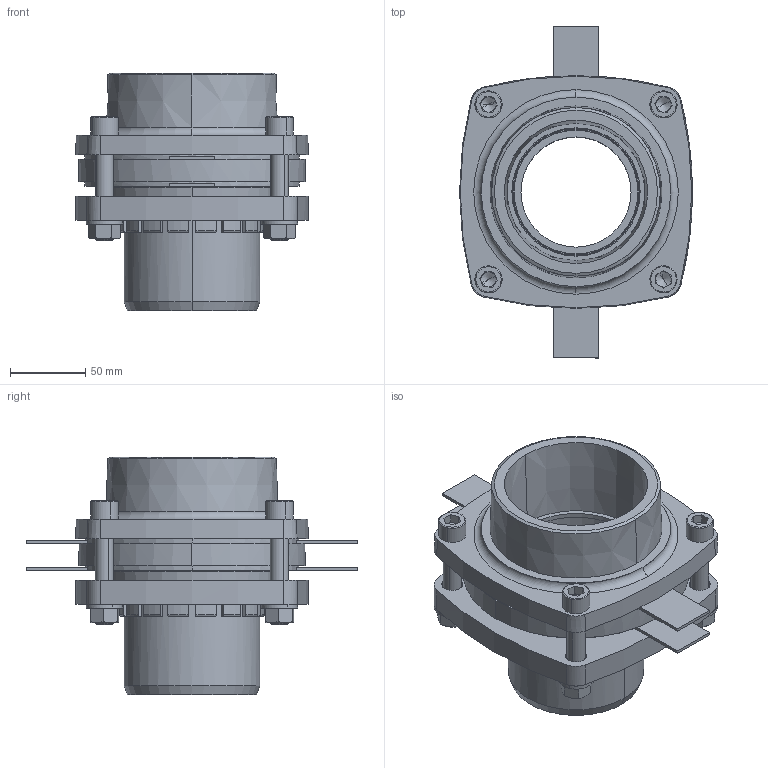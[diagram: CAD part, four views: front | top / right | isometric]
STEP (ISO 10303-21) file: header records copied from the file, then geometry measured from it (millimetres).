
FILE_DESCRIPTION (( 'STEP AP203' ), '1' );
FILE_NAME ('KP_C13-90-110M.step', '2011-08-08T12:02:44', ( '' ), ( '' ), 'SwSTEP 2.0', 'SolidWorks 2011', '' );
FILE_SCHEMA (( 'CONFIG_CONTROL_DESIGN' ));
Length unit declared in the file: millimetre
Products named in the file (1): KP_C13-90-110M
Bounding box: 154.3 x 220 x 157.5 mm (x, y, z)
Volume: 1058751 mm3; surface area: 213899.2 mm2
Topology: 1 solids, 2 shells, 503 faces, 1316 edges, 818 vertices
Faces by surface type: plane 233, cylinder 122, cone 108, torus 40
Entity records: 15779 total; most frequent: CARTESIAN_POINT 2902, DIRECTION 2862, ORIENTED_EDGE 2616, EDGE_CURVE 1308, AXIS2_PLACEMENT_3D 1098, VERTEX_POINT 818, VECTOR 666, LINE 666
